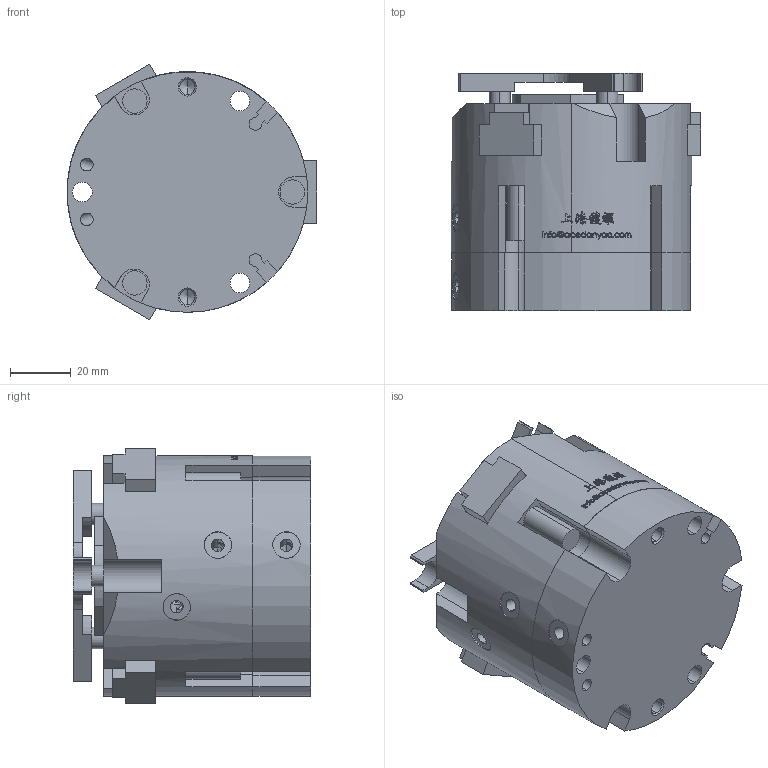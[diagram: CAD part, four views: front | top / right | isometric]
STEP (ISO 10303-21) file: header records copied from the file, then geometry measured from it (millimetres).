
FILE_DESCRIPTION (( 'STEP AP203' ), '1' );
FILE_NAME ('MAC3-80-C1-P-MC&MA-原始檔-組合-W106.04.14.STEP', '2017-04-14T00:49:15', ( 'DanyaoCAD' ), ( '' ), 'SwSTEP 2.0', 'SolidWorks 2016', '' );
FILE_SCHEMA (( 'CONFIG_CONTROL_DESIGN' ));
Length unit declared in the file: millimetre
Products named in the file (6): Fondello; Piattello; Griffa; Corpo; Coperchio; MAC3-80-C1-P-MC&MA-原始檔-組合-W106.04.14
Assembly tree (7 placements, depth 2):
  MAC3-80-C1-P-MC&MA-原始檔-組合-W106.04.14
    Fondello
    Piattello
    Griffa  x3
    Corpo
    Coperchio
Bounding box: 81.96 x 78 x 83.91 mm (x, y, z)
Volume: 309137.4 mm3; surface area: 69090.7 mm2
Topology: 7 solids, 7 shells, 1189 faces, 3291 edges, 2157 vertices
Faces by surface type: bspline 665, plane 279, cylinder 189, cone 56
Entity records: 76285 total; most frequent: CARTESIAN_POINT 52556, ORIENTED_EDGE 6210, EDGE_CURVE 3105, DIRECTION 2371, VERTEX_POINT 2057, B_SPLINE_CURVE_WITH_KNOTS 2048, EDGE_LOOP 1218, ADVANCED_FACE 1125
